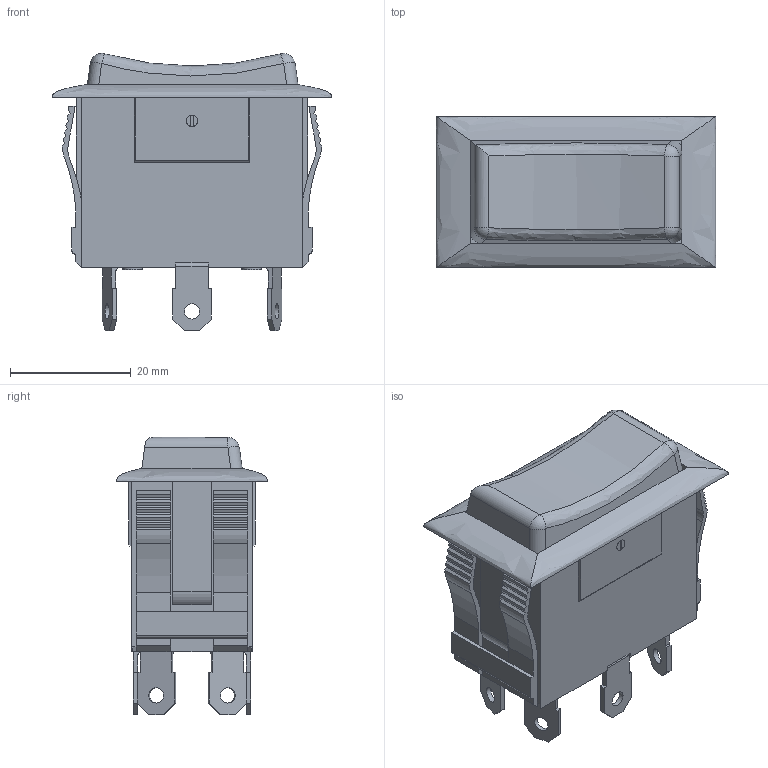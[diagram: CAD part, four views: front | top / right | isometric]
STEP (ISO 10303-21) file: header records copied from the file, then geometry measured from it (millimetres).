
FILE_DESCRIPTION(/* description */ (''),/* implementation_level */ '2;1');
FILE_NAME(/* name */ 'C:\Users\Hani\Desktop\work\SRB1-2G-DC-1-NN\SRB1-2G-DC-1-NN Rocker Switch.stp',/* time_stamp */ '2020-06-07T16:37:48-07:00',/* author */ ('Hani'),/* organization */ (''),/* preprocessor_version */ 'ST-DEVELOPER v17',/* originating_system */ 'Autodesk Inventor 2019',/* authorisation */ '');
FILE_SCHEMA (('AUTOMOTIVE_DESIGN { 1 0 10303 214 3 1 1 }'));
Length unit declared in the file: inch
Products named in the file (9): SRB1-2G-DC-1-NN Rocker Switch; ROCKER SWITCH; terminal; terminal_MIR1; terminal_MIR2; terminal_MIR1_MIR; rivet; botton; pin
Assembly tree (15 placements, depth 2):
  SRB1-2G-DC-1-NN Rocker Switch
    ROCKER SWITCH
    terminal  x2
    terminal_MIR1
    terminal_MIR2  x2
    terminal_MIR1_MIR
    rivet  x6
    botton
    pin
Bounding box: 46.3 x 24.99 x 45.85 mm (x, y, z)
Volume: 25663.3 mm3; surface area: 10597.6 mm2
Topology: 15 solids, 15 shells, 341 faces, 915 edges, 607 vertices
Faces by surface type: plane 262, cylinder 70, bspline 6, sphere 3
Full cylindrical faces by diameter (mm): 1.905 x2, 2.489 x6, 2.54 x12, 3.251 x6
Entity records: 9396 total; most frequent: CARTESIAN_POINT 1707, ORIENTED_EDGE 1538, DIRECTION 1477, EDGE_CURVE 769, LINE 647, VECTOR 647, VERTEX_POINT 503, AXIS2_PLACEMENT_3D 415
